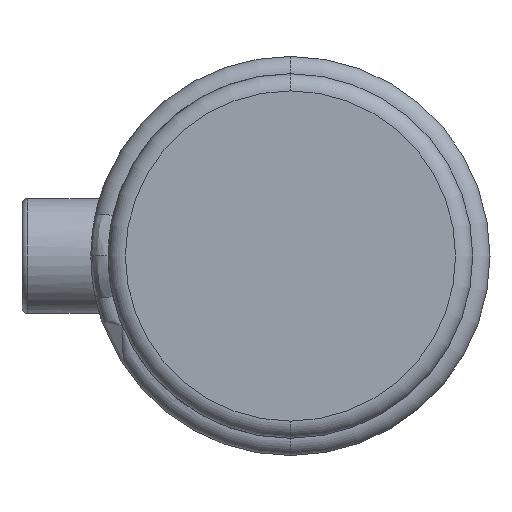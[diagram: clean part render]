
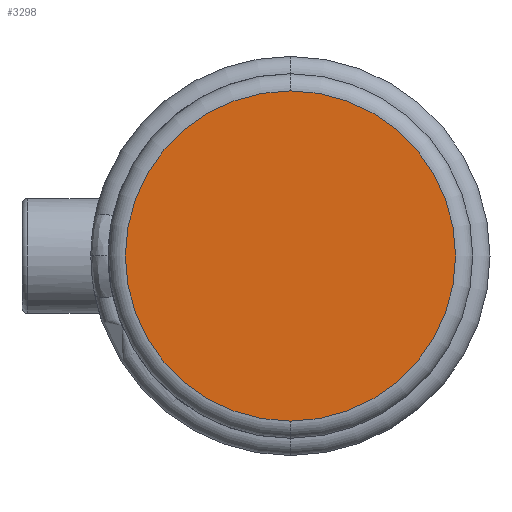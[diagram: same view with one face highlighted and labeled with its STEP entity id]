
A CAD part, left-side view. The second image highlights one B-rep face of the part: STEP entity #3298.
In plain terms, the highlighted planar face has unit normal (-1, 0, 0).
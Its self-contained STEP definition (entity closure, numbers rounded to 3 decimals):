
#77 = DIRECTION ( 'NONE',  ( 0., 0., 1. ) ) ;
#433 = FACE_OUTER_BOUND ( 'NONE', #1278, .T. ) ;
#544 = CARTESIAN_POINT ( 'NONE',  ( 0., 0., 28.75 ) ) ;
#656 = VERTEX_POINT ( 'NONE', #1601 ) ;
#802 = PLANE ( 'NONE',  #3638 ) ;
#1196 = DIRECTION ( 'NONE',  ( -1., 0., 0. ) ) ;
#1278 = EDGE_LOOP ( 'NONE', ( #3969, #4586 ) ) ;
#1307 = CARTESIAN_POINT ( 'NONE',  ( 0., 0., 0. ) ) ;
#1601 = CARTESIAN_POINT ( 'NONE',  ( 0., 0., -28.75 ) ) ;
#1689 = DIRECTION ( 'NONE',  ( 0., 0., 1. ) ) ;
#2337 = DIRECTION ( 'NONE',  ( -1., 0., 0. ) ) ;
#2474 = EDGE_CURVE ( 'NONE', #3778, #656, #2613, .T. ) ;
#2613 = CIRCLE ( 'NONE', #3551, 28.75 ) ;
#2827 = EDGE_CURVE ( 'NONE', #656, #3778, #4022, .T. ) ;
#3298 = ADVANCED_FACE ( 'NONE', ( #433 ), #802, .T. ) ;
#3444 = CARTESIAN_POINT ( 'NONE',  ( 0., 0., 0. ) ) ;
#3447 = CARTESIAN_POINT ( 'NONE',  ( 0., 0., 0. ) ) ;
#3551 = AXIS2_PLACEMENT_3D ( 'NONE', #3444, #1196, #3829 ) ;
#3638 = AXIS2_PLACEMENT_3D ( 'NONE', #3447, #2337, #77 ) ;
#3778 = VERTEX_POINT ( 'NONE', #544 ) ;
#3829 = DIRECTION ( 'NONE',  ( 0., 0., 1. ) ) ;
#3935 = DIRECTION ( 'NONE',  ( -1., 0., 0. ) ) ;
#3969 = ORIENTED_EDGE ( 'NONE', *, *, #2474, .T. ) ;
#4022 = CIRCLE ( 'NONE', #4832, 28.75 ) ;
#4586 = ORIENTED_EDGE ( 'NONE', *, *, #2827, .T. ) ;
#4832 = AXIS2_PLACEMENT_3D ( 'NONE', #1307, #3935, #1689 ) ;
